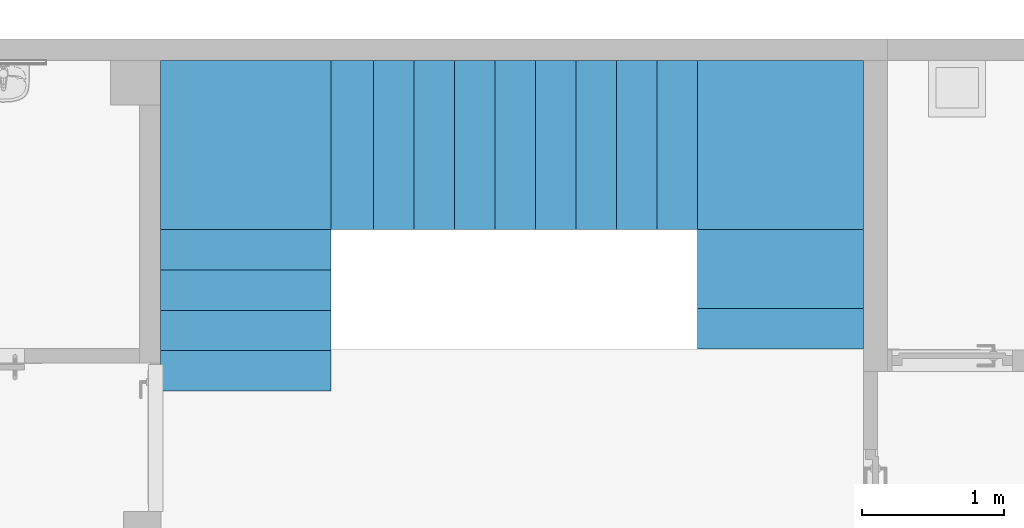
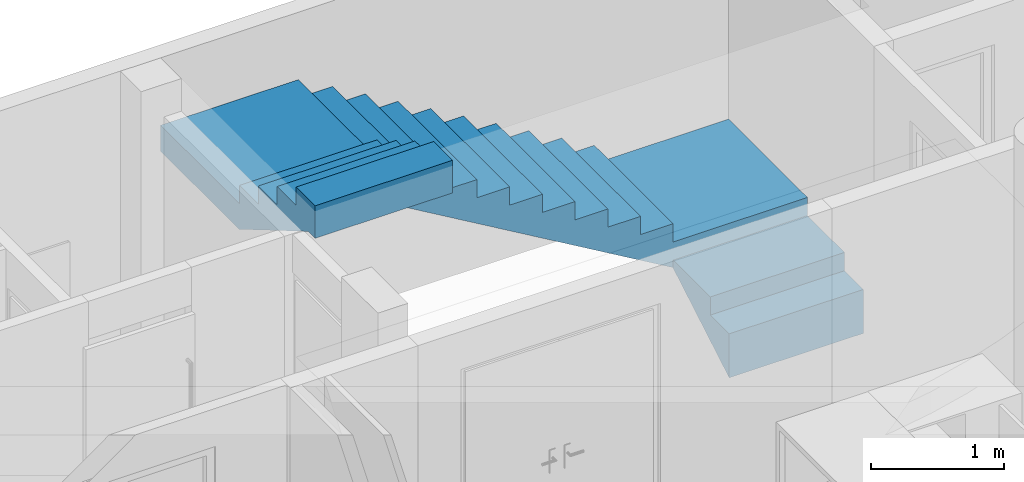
"""IFC4 building model written with IfcOpenShell, lengths in metres."""

import ifcopenshell
import ifcopenshell.guid

model = None  # the IFC model being written
_history = None  # IfcOwnerHistory: only IFC2X3 demands one
_inside = {}  # id of a spatial element -> (the spatial element, [elements in it])
_under = {}  # id of a project, library or spatial element -> (it, [spatial elements below it])
_declared = {}  # id of a project -> (the project, [libraries it declares])
_typed = {}  # id of a type object -> (the type object, [elements of that type])
_made_of = {}  # id of a material, layer set ... -> (it, [elements and type objects made of it])


def new_model(schema):
    """Start an empty IFC model of exactly this schema.

    Asked for "IFC4X3", IfcOpenShell would pick the latest addendum, in which some entities
    have other attributes; the version numbers below select the first issue.
    IFC2X3 requires an IfcOwnerHistory on every rooted entity: one is made here for all.
    """
    global model, _history
    if schema == "IFC4X3":
        model = ifcopenshell.file(schema_version=(4, 3, 0, 0))
    else:
        model = ifcopenshell.file(schema=schema)
    _inside.clear()
    _under.clear()
    _declared.clear()
    _typed.clear()
    _made_of.clear()
    _history = None
    if model.schema == "IFC2X3":
        org = make("IfcOrganization", Name="unknown")
        user = make(
            "IfcPersonAndOrganization",
            ThePerson=make("IfcPerson", FamilyName="unknown"),
            TheOrganization=org,
        )
        app = make(
            "IfcApplication",
            ApplicationDeveloper=org,
            Version="unknown",
            ApplicationFullName="unknown",
            ApplicationIdentifier="unknown",
        )
        _history = make(
            "IfcOwnerHistory",
            OwningUser=user,
            OwningApplication=app,
            ChangeAction="ADDED",
            CreationDate=0,
        )
    return model


def make(cls, **values):
    """One entity of the class cls with the attributes given. An attribute that is None is left unset."""
    return model.create_entity(
        cls, **{name: value for name, value in values.items() if value is not None}
    )


def entity(cls, *values):
    """Any entity or typed value of the class cls, its attributes in the order of the schema. None: left unset."""
    e = model.create_entity(cls)
    for i, value in enumerate(values):
        if value is not None:
            e[i] = value
    return e


def rooted(cls, **values):
    """An entity with a GlobalId (a new one), such as an element, a storey or a relation."""
    return make(cls, GlobalId=ifcopenshell.guid.new(), OwnerHistory=_history, **values)


def si_unit(unit_type, name, prefix=None):
    """IfcSIUnit, for example si_unit("LENGTHUNIT", "METRE", prefix="MILLI")."""
    return make("IfcSIUnit", UnitType=unit_type, Prefix=prefix, Name=name)


def converted_unit(unit_type, name, factor, base, dimensions=None, offset=None):
    """IfcConversionBasedUnit, such as the inch: factor (a typed value) times the base unit."""
    return make(
        "IfcConversionBasedUnit"
        if offset is None
        else "IfcConversionBasedUnitWithOffset",
        ConversionOffset=offset,
        Dimensions=None
        if dimensions is None
        else entity("IfcDimensionalExponents", *dimensions),
        UnitType=unit_type,
        Name=name,
        ConversionFactor=make(
            "IfcMeasureWithUnit", ValueComponent=factor, UnitComponent=base
        ),
    )


def derived_unit(unit_type, elements):
    """IfcDerivedUnit: a product of units, each with its exponent."""
    return make(
        "IfcDerivedUnit",
        Elements=[
            make("IfcDerivedUnitElement", Unit=unit, Exponent=power)
            for unit, power in elements
        ],
        UnitType=unit_type,
    )


def assignment(units):
    """IfcUnitAssignment: the units of a project."""
    return None if units is None else make("IfcUnitAssignment", Units=units)


def point(xyz):
    """IfcCartesianPoint."""
    return None if xyz is None else make("IfcCartesianPoint", Coordinates=xyz)


def direction(xyz):
    """IfcDirection."""
    return None if xyz is None else make("IfcDirection", DirectionRatios=xyz)


def frame(location, z_axis=None, x_axis=None):
    """IfcAxis2Placement3D, a coordinate frame: its origin and axes. An axis left out is left unset."""
    return make(
        "IfcAxis2Placement3D",
        Location=point(location),
        Axis=direction(z_axis),
        RefDirection=direction(x_axis),
    )


def origin():
    """The frame at (0, 0, 0) with its axes left unset."""
    return frame((0.0, 0.0, 0.0))


def place(relative_to, where):
    """IfcLocalPlacement: puts the frame where relative to a parent placement (None: the world)."""
    return make(
        "IfcLocalPlacement", PlacementRelTo=relative_to, RelativePlacement=where
    )


def context(
    kind, dimensions, precision=None, world=None, true_north=None, identifier=None
):
    """IfcGeometricRepresentationContext, for example the 3D "Model" context."""
    return make(
        "IfcGeometricRepresentationContext",
        ContextIdentifier=identifier,
        ContextType=kind,
        CoordinateSpaceDimension=dimensions,
        Precision=precision,
        WorldCoordinateSystem=world,
        TrueNorth=true_north,
    )


def subcontext(parent, identifier, kind, view, scale=None):
    """IfcGeometricRepresentationSubContext, for example "Body" below "Model"."""
    return make(
        "IfcGeometricRepresentationSubContext",
        ContextIdentifier=identifier,
        ContextType=kind,
        ParentContext=parent,
        TargetScale=scale,
        TargetView=view,
    )


def project(units=None, contexts=None):
    """IfcProject with its units and contexts."""
    return rooted(
        "IfcProject",
        Name="project",
        RepresentationContexts=contexts,
        UnitsInContext=assignment(units),
    )


def spatial(cls, under=None, at=None, **own):
    """A site, building, storey or space (cls), placed at a placement, below another one or the project."""
    s = rooted(cls, ObjectPlacement=at, **own)
    if under is not None:
        _under.setdefault(under.id(), (under, []))[1].append(s)
    return s


def faces_of(points, faces, orient=None, outer=None):
    """IfcFace entities. A face is a list of loops; a loop is a list of indices into points, from 0.

    orient and outer hold one flag for each loop. By default every Orientation is true, the
    first loop of a face is its IfcFaceOuterBound and the others are IfcFaceBound.
    """
    made = []
    for i, loops in enumerate(faces):
        bounds = []
        for j, loop in enumerate(loops):
            is_outer = j == 0 if outer is None else outer[i][j]
            bounds.append(
                make(
                    "IfcFaceOuterBound" if is_outer else "IfcFaceBound",
                    Bound=make("IfcPolyLoop", Polygon=[points[k] for k in loop]),
                    Orientation=True if orient is None else orient[i][j],
                )
            )
        made.append(make("IfcFace", Bounds=bounds))
    return made


def faceted_brep(points, faces, orient=None, outer=None, voids=None):
    """IfcFacetedBrep: a solid bounded by flat faces; with voids (closed shells), ...WithVoids."""
    shared = [point(p) for p in points]
    hull = make("IfcClosedShell", CfsFaces=faces_of(shared, faces, orient, outer))
    if voids is None:
        return make("IfcFacetedBrep", Outer=hull)
    return make(
        "IfcFacetedBrepWithVoids",
        Outer=hull,
        Voids=[
            make(cls, CfsFaces=faces_of(shared, fs, o, b)) for cls, fs, o, b in voids
        ],
    )


def shape(context_of_items, identifier, shape_type, items):
    """IfcShapeRepresentation: the items that make up one representation, for example the "Body"."""
    return make(
        "IfcShapeRepresentation",
        ContextOfItems=context_of_items,
        RepresentationIdentifier=identifier,
        RepresentationType=shape_type,
        Items=items,
    )


def material(Name=None, Category=None):
    """IfcMaterial."""
    return make("IfcMaterial", Name=Name, Category=Category)


def made_of(thing, what):
    """Note that an element or type object is made of a material, layer set ...; save() writes the relation."""
    if what is not None:
        _made_of.setdefault(what.id(), (what, []))[1].append(thing)
    return thing


def element(
    cls,
    number,
    at=None,
    inside=None,
    cuts=None,
    type_object=None,
    material=None,
    context=None,
    identifier="Body",
    shape_type=None,
    held_by="IfcProductDefinitionShape",
    body=None,
    shapes=None,
    **own,
):
    """One element of the class cls, such as IfcWall. Its Tag is "e" and its number.

    at: its placement. inside: the storey or other place that contains it. cuts: it is an
    opening in that element (IfcRelVoidsElement). A single representation is given by context,
    identifier, shape_type and body (its items); several are given by shapes. held_by: the class
    of the entity that holds the representations. save() writes the other relations.
    """
    e = rooted(cls, Tag="e%d" % number, ObjectPlacement=at, **own)
    if body is not None:
        shapes = [shape(context, identifier, shape_type, body)]
    if shapes is not None:
        e.Representation = make(held_by, Representations=shapes)
    if inside is not None:
        _inside.setdefault(inside.id(), (inside, []))[1].append(e)
    if cuts is not None:
        rooted(
            "IfcRelVoidsElement", RelatingBuildingElement=cuts, RelatedOpeningElement=e
        )
    if type_object is not None:
        _typed.setdefault(type_object.id(), (type_object, []))[1].append(e)
    return made_of(e, material)


def aggregate(whole, parts):
    """IfcRelAggregates: a whole, such as a stair, and the parts it consists of."""
    return rooted("IfcRelAggregates", RelatingObject=whole, RelatedObjects=parts)


def save(model, path):
    """Write the relations noted so far, then the file.

    IfcRelAggregates (storeys below a building ...), IfcRelContainedInSpatialStructure (elements
    in a storey), IfcRelDefinesByType, IfcRelAssociatesMaterial and IfcRelDeclares: one each for
    every whole, place, type object, material and project.
    """
    for whole, parts in _under.values():
        aggregate(whole, parts)
    for where, things in _inside.values():
        rooted(
            "IfcRelContainedInSpatialStructure",
            RelatedElements=things,
            RelatingStructure=where,
        )
    for kind, things in _typed.values():
        rooted("IfcRelDefinesByType", RelatedObjects=things, RelatingType=kind)
    for what, things in _made_of.values():
        rooted("IfcRelAssociatesMaterial", RelatedObjects=things, RelatingMaterial=what)
    for by, libraries in _declared.values():
        rooted("IfcRelDeclares", RelatingContext=by, RelatedDefinitions=libraries)
    model.write(path)


model = new_model("IFC4")

# Units and contexts
model_context = context("Model", 3, precision=1e-05, world=origin())
body_context = subcontext(model_context, "Body", "Model", "MODEL_VIEW")
ifc_project = project(units=[si_unit("LENGTHUNIT", "METRE"), si_unit("AREAUNIT", "SQUARE_METRE"), si_unit("VOLUMEUNIT", "CUBIC_METRE"), si_unit("MASSUNIT", "GRAM", prefix="KILO"), converted_unit("PLANEANGLEUNIT", "DEGREE", entity("IfcPlaneAngleMeasure", 0.0174532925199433), si_unit("PLANEANGLEUNIT", "RADIAN"), dimensions=[0, 0, 0, 0, 0, 0, 0]), derived_unit("THERMALTRANSMITTANCEUNIT", [(si_unit("POWERUNIT", "WATT"), 1), (si_unit("THERMODYNAMICTEMPERATUREUNIT", "KELVIN"), -1), (si_unit("LENGTHUNIT", "METRE"), -2)]), derived_unit("VOLUMETRICFLOWRATEUNIT", [(si_unit("LENGTHUNIT", "METRE"), 3), (converted_unit("TIMEUNIT", "hour", entity("IfcTimeMeasure", 3600.0), si_unit("TIMEUNIT", "SECOND"), dimensions=[0, 0, 1, 0, 0, 0, 0]), -1), (si_unit("LENGTHUNIT", "METRE"), -1)])], contexts=[model_context])

# Building, storeys
building_placement = place(None, origin())
building = spatial("IfcBuilding", under=ifc_project, at=building_placement, Name="HABITATGE PLURIFAMILIAR", CompositionType="ELEMENT")
storey_1_placement = place(building_placement, frame((0.0, 0.0, 3.35)))
storey_1 = spatial("IfcBuildingStorey", under=building, at=storey_1_placement, Name="PLANTA  ALTELL", CompositionType="ELEMENT", Elevation=3.35)
storey_2_placement = place(storey_1_placement, origin())
storey_2 = spatial("IfcBuildingStorey", under=storey_1, at=storey_2_placement, Name="NOU", CompositionType="PARTIAL")

# Stair
ifc_material = material(Name="*varios*")
stair_placement = place(storey_2_placement, frame((410.827067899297, 25.7495914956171, -0.23716093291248)))
element("IfcStair", 1, at=stair_placement, inside=storey_2, material=ifc_material, Name="Peldaño final", PredefinedType="TWO_QUARTER_TURN_STAIR", context=body_context, shape_type="Brep", body=[
    faceted_brep([(3.7798637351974, 0.295806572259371, 0.364807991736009), (3.7798637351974, 0.295806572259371, 0.404807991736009), (4.9498637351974, 0.295806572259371, 0.404807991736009), (4.9498637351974, 0.295806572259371, 0.364807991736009), (4.9498637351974, 0.580806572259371, 0.404807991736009), (4.9498637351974, 0.580806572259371, 0.364807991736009), (3.7798637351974, 0.580806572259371, 0.404807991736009), (3.7798637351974, 0.580806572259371, 0.364807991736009)], [[[0, 1, 2, 3]], [[3, 2, 4, 5]], [[5, 4, 6, 7]], [[7, 6, 1, 0]], [[0, 3, 5, 7]], [[1, 6, 4, 2]]], orient=[[False], [False], [False], [False], [False], [False]]),
    faceted_brep([(3.7798637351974, 0.580806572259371, 0.532455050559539), (3.7798637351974, 0.580806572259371, 0.572455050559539), (4.9498637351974, 0.580806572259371, 0.572455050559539), (4.9498637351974, 0.580806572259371, 0.532455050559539), (4.9498637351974, 1.14, 0.572455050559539), (4.9498637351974, 1.14, 0.532455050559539), (3.7798637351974, 1.14, 0.572455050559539), (3.7798637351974, 1.14, 0.532455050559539)], [[[0, 1, 2, 3]], [[3, 2, 4, 5]], [[5, 4, 6, 7]], [[7, 6, 1, 0]], [[0, 3, 5, 7]], [[1, 6, 4, 2]]], orient=[[False], [False], [False], [False], [False], [False]]),
    faceted_brep([(4.9498637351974, 1.14, 0.532455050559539), (4.9498637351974, 0.580806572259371, 0.532455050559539), (3.7798637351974, 0.580806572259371, 0.532455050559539), (3.7798637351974, 1.14, 0.532455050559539), (4.9498637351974, 0.295806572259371, 0.0), (4.9498637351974, 0.295806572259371, 0.364807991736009), (4.9498637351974, 0.580806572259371, 0.36480799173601), (4.9498637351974, 1.14, 0.500102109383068), (4.9498637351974, 1.14598015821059, 0.500102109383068), (3.7798637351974, 0.580806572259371, 0.36480799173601), (3.7798637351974, 1.14598015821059, 0.500102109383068), (3.7798637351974, 1.14, 0.500102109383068), (3.7798637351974, 0.295806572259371, 0.364807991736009), (3.7798637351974, 0.295806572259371, 0.0)], [[[0, 1, 2, 3]], [[4, 5, 6, 1, 0, 7, 8]], [[1, 6, 9, 2]], [[10, 11, 3, 2, 9, 12, 13]], [[10, 13, 4, 8]], [[11, 10, 8, 7]], [[6, 5, 12, 9]], [[5, 4, 13, 12]], [[11, 7, 0, 3]]], orient=[[False], [False], [False], [False], [False], [False], [False], [False], [False]]),
    faceted_brep([(3.7798637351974, 1.14, 0.700102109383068), (3.7798637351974, 1.14, 0.740102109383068), (4.9498637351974, 1.14, 0.740102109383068), (4.9498637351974, 1.14, 0.700102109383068), (4.9498637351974, 2.33049626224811, 0.740102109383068), (4.9498637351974, 2.33049626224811, 0.700102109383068), (3.7798637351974, 2.33049626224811, 0.740102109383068), (3.7798637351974, 2.33049626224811, 0.700102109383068)], [[[0, 1, 2, 3]], [[3, 2, 4, 5]], [[5, 4, 6, 7]], [[7, 6, 1, 0]], [[0, 3, 5, 7]], [[1, 6, 4, 2]]], orient=[[False], [False], [False], [False], [False], [False]]),
    faceted_brep([(3.7798637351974, 1.14, 0.500102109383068), (3.7798637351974, 1.14, 0.700102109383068), (4.9498637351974, 1.14, 0.700102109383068), (4.9498637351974, 1.14, 0.500102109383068), (4.9498637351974, 2.33049626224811, 0.700102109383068), (4.9498637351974, 2.33049626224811, 0.500102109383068), (3.7798637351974, 2.33049626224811, 0.700102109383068), (3.7798637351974, 2.33049626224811, 0.500102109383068)], [[[0, 1, 2, 3]], [[3, 2, 4, 5]], [[5, 4, 6, 7]], [[7, 6, 1, 0]], [[0, 3, 5, 7]], [[1, 6, 4, 2]]], orient=[[False], [False], [False], [False], [False], [False]]),
    faceted_brep([(3.7798637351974, 1.14, 0.867749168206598), (3.7798637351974, 1.14, 0.907749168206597), (3.7798637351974, 2.33049626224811, 0.907749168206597), (3.7798637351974, 2.33049626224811, 0.867749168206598), (3.4948637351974, 2.33049626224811, 0.907749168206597), (3.4948637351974, 2.33049626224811, 0.867749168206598), (3.4948637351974, 1.14, 0.907749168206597), (3.4948637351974, 1.14, 0.867749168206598)], [[[0, 1, 2, 3]], [[3, 2, 4, 5]], [[5, 4, 6, 7]], [[7, 6, 1, 0]], [[0, 3, 5, 7]], [[1, 6, 4, 2]]], orient=[[False], [False], [False], [False], [False], [False]]),
    faceted_brep([(3.4948637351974, 1.14, 1.03539622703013), (3.4948637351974, 1.14, 1.07539622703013), (3.4948637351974, 2.33049626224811, 1.07539622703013), (3.4948637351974, 2.33049626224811, 1.03539622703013), (3.2098637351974, 2.33049626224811, 1.07539622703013), (3.2098637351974, 2.33049626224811, 1.03539622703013), (3.2098637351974, 1.14, 1.07539622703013), (3.2098637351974, 1.14, 1.03539622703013)], [[[0, 1, 2, 3]], [[3, 2, 4, 5]], [[5, 4, 6, 7]], [[7, 6, 1, 0]], [[0, 3, 5, 7]], [[1, 6, 4, 2]]], orient=[[False], [False], [False], [False], [False], [False]]),
    faceted_brep([(3.2098637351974, 1.14, 1.20304328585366), (3.2098637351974, 1.14, 1.24304328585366), (3.2098637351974, 2.33049626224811, 1.24304328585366), (3.2098637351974, 2.33049626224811, 1.20304328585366), (2.9248637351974, 2.33049626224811, 1.24304328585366), (2.9248637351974, 2.33049626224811, 1.20304328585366), (2.9248637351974, 1.14, 1.24304328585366), (2.9248637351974, 1.14, 1.20304328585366)], [[[0, 1, 2, 3]], [[3, 2, 4, 5]], [[5, 4, 6, 7]], [[7, 6, 1, 0]], [[0, 3, 5, 7]], [[1, 6, 4, 2]]], orient=[[False], [False], [False], [False], [False], [False]]),
    faceted_brep([(2.9248637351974, 1.14, 1.37069034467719), (2.9248637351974, 1.14, 1.41069034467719), (2.9248637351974, 2.33049626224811, 1.41069034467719), (2.9248637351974, 2.33049626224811, 1.37069034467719), (2.6398637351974, 2.33049626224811, 1.41069034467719), (2.6398637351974, 2.33049626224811, 1.37069034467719), (2.6398637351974, 1.14, 1.41069034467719), (2.6398637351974, 1.14, 1.37069034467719)], [[[0, 1, 2, 3]], [[3, 2, 4, 5]], [[5, 4, 6, 7]], [[7, 6, 1, 0]], [[0, 3, 5, 7]], [[1, 6, 4, 2]]], orient=[[False], [False], [False], [False], [False], [False]]),
    faceted_brep([(2.6398637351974, 1.14, 1.53833740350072), (2.6398637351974, 1.14, 1.57833740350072), (2.6398637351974, 2.33049626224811, 1.57833740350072), (2.6398637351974, 2.33049626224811, 1.53833740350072), (2.3548637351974, 2.33049626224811, 1.57833740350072), (2.3548637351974, 2.33049626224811, 1.53833740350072), (2.3548637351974, 1.14, 1.57833740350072), (2.3548637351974, 1.14, 1.53833740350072)], [[[0, 1, 2, 3]], [[3, 2, 4, 5]], [[5, 4, 6, 7]], [[7, 6, 1, 0]], [[0, 3, 5, 7]], [[1, 6, 4, 2]]], orient=[[False], [False], [False], [False], [False], [False]]),
    faceted_brep([(2.3548637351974, 1.14, 1.70598446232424), (2.3548637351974, 1.14, 1.74598446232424), (2.3548637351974, 2.33049626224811, 1.74598446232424), (2.3548637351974, 2.33049626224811, 1.70598446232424), (2.0698637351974, 2.33049626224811, 1.74598446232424), (2.0698637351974, 2.33049626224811, 1.70598446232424), (2.0698637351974, 1.14, 1.74598446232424), (2.0698637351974, 1.14, 1.70598446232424)], [[[0, 1, 2, 3]], [[3, 2, 4, 5]], [[5, 4, 6, 7]], [[7, 6, 1, 0]], [[0, 3, 5, 7]], [[1, 6, 4, 2]]], orient=[[False], [False], [False], [False], [False], [False]]),
    faceted_brep([(2.0698637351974, 1.14, 1.87363152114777), (2.0698637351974, 1.14, 1.91363152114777), (2.0698637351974, 2.33049626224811, 1.91363152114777), (2.0698637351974, 2.33049626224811, 1.87363152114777), (1.7848637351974, 2.33049626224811, 1.91363152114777), (1.7848637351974, 2.33049626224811, 1.87363152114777), (1.7848637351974, 1.14, 1.91363152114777), (1.7848637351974, 1.14, 1.87363152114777)], [[[0, 1, 2, 3]], [[3, 2, 4, 5]], [[5, 4, 6, 7]], [[7, 6, 1, 0]], [[0, 3, 5, 7]], [[1, 6, 4, 2]]], orient=[[False], [False], [False], [False], [False], [False]]),
    faceted_brep([(1.7848637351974, 1.14, 2.0412785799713), (1.7848637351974, 1.14, 2.0812785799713), (1.7848637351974, 2.33049626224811, 2.0812785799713), (1.7848637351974, 2.33049626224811, 2.0412785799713), (1.4998637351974, 2.33049626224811, 2.0812785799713), (1.4998637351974, 2.33049626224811, 2.0412785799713), (1.4998637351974, 1.14, 2.0812785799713), (1.4998637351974, 1.14, 2.0412785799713)], [[[0, 1, 2, 3]], [[3, 2, 4, 5]], [[5, 4, 6, 7]], [[7, 6, 1, 0]], [[0, 3, 5, 7]], [[1, 6, 4, 2]]], orient=[[False], [False], [False], [False], [False], [False]]),
    faceted_brep([(1.4998637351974, 1.14, 2.20892563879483), (1.4998637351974, 1.14, 2.24892563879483), (1.4998637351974, 2.33049626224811, 2.24892563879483), (1.4998637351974, 2.33049626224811, 2.20892563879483), (1.19986373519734, 2.33049626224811, 2.24892563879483), (1.19986373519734, 2.33049626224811, 2.20892563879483), (1.19986373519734, 1.14, 2.24892563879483), (1.19986373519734, 1.14, 2.20892563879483)], [[[0, 1, 2, 3]], [[3, 2, 4, 5]], [[5, 4, 6, 7]], [[7, 6, 1, 0]], [[0, 3, 5, 7]], [[1, 6, 4, 2]]], orient=[[False], [False], [False], [False], [False], [False]]),
    faceted_brep([(1.19986373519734, 2.33049626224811, 2.20892563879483), (1.4998637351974, 2.33049626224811, 2.20892563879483), (1.4998637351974, 1.14, 2.20892563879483), (1.19986373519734, 1.14, 2.20892563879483), (3.7798637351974, 2.33049626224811, 0.502941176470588), (3.7798637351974, 2.33049626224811, 0.867749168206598), (3.4948637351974, 2.33049626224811, 0.867749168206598), (3.4948637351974, 2.33049626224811, 1.03539622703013), (3.2098637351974, 2.33049626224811, 1.03539622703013), (3.2098637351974, 2.33049626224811, 1.20304328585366), (2.9248637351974, 2.33049626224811, 1.20304328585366), (2.9248637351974, 2.33049626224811, 1.37069034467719), (2.6398637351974, 2.33049626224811, 1.37069034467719), (2.6398637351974, 2.33049626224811, 1.53833740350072), (2.3548637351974, 2.33049626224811, 1.53833740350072), (2.3548637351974, 2.33049626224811, 1.70598446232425), (2.0698637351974, 2.33049626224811, 1.70598446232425), (2.0698637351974, 2.33049626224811, 1.87363152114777), (1.7848637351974, 2.33049626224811, 1.87363152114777), (1.7848637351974, 2.33049626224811, 2.0412785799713), (1.4998637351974, 2.33049626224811, 2.0412785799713), (1.19986373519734, 2.33049626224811, 2.17657269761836), (0.934690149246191, 2.33049626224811, 2.17657269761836), (1.4998637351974, 1.14, 2.0412785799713), (0.934690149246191, 1.14, 2.17657269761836), (1.19986373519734, 1.14, 2.17657269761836), (1.7848637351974, 1.14, 2.0412785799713), (1.7848637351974, 1.14, 1.87363152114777), (2.0698637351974, 1.14, 1.87363152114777), (2.0698637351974, 1.14, 1.70598446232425), (2.3548637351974, 1.14, 1.70598446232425), (2.3548637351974, 1.14, 1.53833740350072), (2.6398637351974, 1.14, 1.53833740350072), (2.6398637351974, 1.14, 1.37069034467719), (2.9248637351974, 1.14, 1.37069034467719), (2.9248637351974, 1.14, 1.20304328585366), (3.2098637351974, 1.14, 1.20304328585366), (3.2098637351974, 1.14, 1.03539622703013), (3.4948637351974, 1.14, 1.03539622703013), (3.4948637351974, 1.14, 0.867749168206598), (3.7798637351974, 1.14, 0.867749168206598), (3.7798637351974, 1.14, 0.502941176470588)], [[[0, 1, 2, 3]], [[4, 5, 6, 7, 8, 9, 10, 11, 12, 13, 14, 15, 16, 17, 18, 19, 20, 1, 0, 21, 22]], [[1, 20, 23, 2]], [[24, 25, 3, 2, 23, 26, 27, 28, 29, 30, 31, 32, 33, 34, 35, 36, 37, 38, 39, 40, 41]], [[24, 41, 4, 22]], [[25, 24, 22, 21]], [[20, 19, 26, 23]], [[19, 18, 27, 26]], [[18, 17, 28, 27]], [[17, 16, 29, 28]], [[16, 15, 30, 29]], [[15, 14, 31, 30]], [[14, 13, 32, 31]], [[13, 12, 33, 32]], [[12, 11, 34, 33]], [[11, 10, 35, 34]], [[10, 9, 36, 35]], [[9, 8, 37, 36]], [[8, 7, 38, 37]], [[7, 6, 39, 38]], [[6, 5, 40, 39]], [[5, 4, 41, 40]], [[25, 21, 0, 3]]], orient=[[False], [False], [False], [False], [False], [False], [False], [False], [False], [False], [False], [False], [False], [False], [False], [False], [False], [False], [False], [False], [False], [False], [False]]),
    faceted_brep([(1.19986373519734, 1.14, 2.37657269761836), (1.19986373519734, 1.14, 2.41657269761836), (1.19986373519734, 2.33049626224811, 2.41657269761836), (1.19986373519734, 2.33049626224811, 2.37657269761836), (0.0, 2.33049626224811, 2.41657269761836), (0.0, 2.33049626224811, 2.37657269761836), (0.0, 1.14, 2.41657269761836), (0.0, 1.14, 2.37657269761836)], [[[0, 1, 2, 3]], [[3, 2, 4, 5]], [[5, 4, 6, 7]], [[7, 6, 1, 0]], [[0, 3, 5, 7]], [[1, 6, 4, 2]]], orient=[[False], [False], [False], [False], [False], [False]]),
    faceted_brep([(1.19986373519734, 1.14, 2.17657269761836), (1.19986373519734, 1.14, 2.37657269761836), (1.19986373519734, 2.33049626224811, 2.37657269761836), (1.19986373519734, 2.33049626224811, 2.17657269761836), (0.0, 2.33049626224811, 2.37657269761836), (0.0, 2.33049626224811, 2.17657269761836), (0.0, 1.14, 2.37657269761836), (0.0, 1.14, 2.17657269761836)], [[[0, 1, 2, 3]], [[3, 2, 4, 5]], [[5, 4, 6, 7]], [[7, 6, 1, 0]], [[0, 3, 5, 7]], [[1, 6, 4, 2]]], orient=[[False], [False], [False], [False], [False], [False]]),
    faceted_brep([(1.19986373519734, 1.14, 2.54421975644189), (1.19986373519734, 1.14, 2.58421975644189), (0.0, 1.14, 2.58421975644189), (0.0, 1.14, 2.54421975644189), (0.0, 0.855, 2.58421975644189), (0.0, 0.855, 2.54421975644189), (1.19986373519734, 0.855, 2.58421975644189), (1.19986373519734, 0.855, 2.54421975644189)], [[[0, 1, 2, 3]], [[3, 2, 4, 5]], [[5, 4, 6, 7]], [[7, 6, 1, 0]], [[0, 3, 5, 7]], [[1, 6, 4, 2]]], orient=[[False], [False], [False], [False], [False], [False]]),
    faceted_brep([(1.19986373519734, 0.855, 2.71186681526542), (1.19986373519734, 0.855, 2.75186681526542), (0.0, 0.855, 2.75186681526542), (0.0, 0.855, 2.71186681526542), (0.0, 0.57, 2.75186681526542), (0.0, 0.57, 2.71186681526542), (1.19986373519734, 0.57, 2.75186681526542), (1.19986373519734, 0.57, 2.71186681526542)], [[[0, 1, 2, 3]], [[3, 2, 4, 5]], [[5, 4, 6, 7]], [[7, 6, 1, 0]], [[0, 3, 5, 7]], [[1, 6, 4, 2]]], orient=[[False], [False], [False], [False], [False], [False]]),
    faceted_brep([(1.19986373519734, 0.57, 2.87951387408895), (1.19986373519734, 0.57, 2.91951387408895), (0.0, 0.57, 2.91951387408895), (0.0, 0.57, 2.87951387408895), (0.0, 0.285, 2.91951387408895), (0.0, 0.285, 2.87951387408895), (1.19986373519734, 0.285, 2.91951387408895), (1.19986373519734, 0.285, 2.87951387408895)], [[[0, 1, 2, 3]], [[3, 2, 4, 5]], [[5, 4, 6, 7]], [[7, 6, 1, 0]], [[0, 3, 5, 7]], [[1, 6, 4, 2]]], orient=[[False], [False], [False], [False], [False], [False]]),
    faceted_brep([(1.19986373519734, 0.285, 3.04716093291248), (1.19986373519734, 0.285, 3.08716093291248), (0.0, 0.285, 3.08716093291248), (0.0, 0.285, 3.04716093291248), (0.0, 0.0, 3.08716093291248), (0.0, 0.0, 3.04716093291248), (1.19986373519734, 0.0, 3.08716093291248), (1.19986373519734, 0.0, 3.04716093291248)], [[[0, 1, 2, 3]], [[3, 2, 4, 5]], [[5, 4, 6, 7]], [[7, 6, 1, 0]], [[0, 3, 5, 7]], [[1, 6, 4, 2]]], orient=[[False], [False], [False], [False], [False], [False]]),
    faceted_brep([(0.0, 0.0, 3.04716093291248), (0.0, 0.285, 3.04716093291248), (1.19986373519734, 0.285, 3.04716093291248), (1.19986373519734, 0.0, 3.04716093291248), (0.0, 1.14, 2.17941176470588), (0.0, 1.14, 2.54421975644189), (0.0, 0.855, 2.54421975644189), (0.0, 0.855, 2.71186681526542), (0.0, 0.57, 2.71186681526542), (0.0, 0.57, 2.87951387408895), (0.0, 0.285, 2.87951387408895), (0.0, 0.0, 2.78716093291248), (0.0, 0.106826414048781, 2.78716093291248), (1.19986373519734, 0.285, 2.87951387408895), (1.19986373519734, 0.106826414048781, 2.78716093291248), (1.19986373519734, 0.0, 2.78716093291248), (1.19986373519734, 0.57, 2.87951387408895), (1.19986373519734, 0.57, 2.71186681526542), (1.19986373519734, 0.855, 2.71186681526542), (1.19986373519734, 0.855, 2.54421975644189), (1.19986373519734, 1.14, 2.54421975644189), (1.19986373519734, 1.14, 2.17941176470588)], [[[0, 1, 2, 3]], [[4, 5, 6, 7, 8, 9, 10, 1, 0, 11, 12]], [[1, 10, 13, 2]], [[14, 15, 3, 2, 13, 16, 17, 18, 19, 20, 21]], [[14, 21, 4, 12]], [[15, 14, 12, 11]], [[10, 9, 16, 13]], [[9, 8, 17, 16]], [[8, 7, 18, 17]], [[7, 6, 19, 18]], [[6, 5, 20, 19]], [[5, 4, 21, 20]], [[15, 11, 0, 3]]], orient=[[False], [False], [False], [False], [False], [False], [False], [False], [False], [False], [False], [False], [False]]),
])

save(model, "model.ifc")
